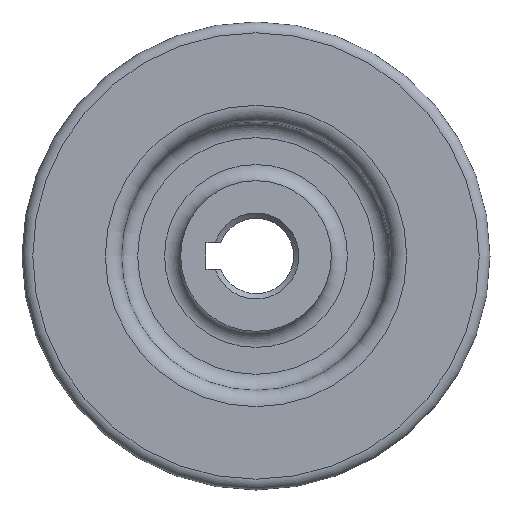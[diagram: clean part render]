
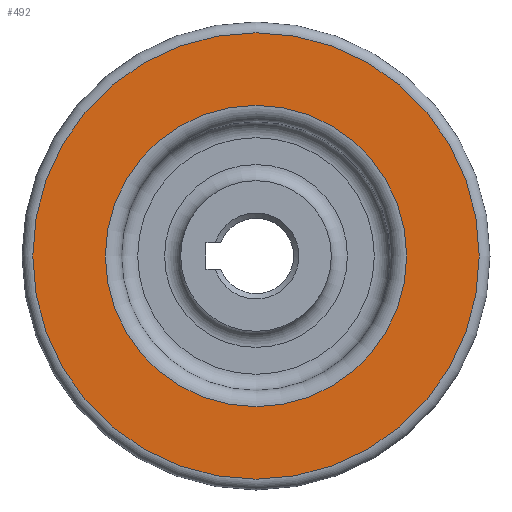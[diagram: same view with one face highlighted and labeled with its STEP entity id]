
A CAD part, left-side view. The second image highlights one B-rep face of the part: STEP entity #492.
In plain terms, the highlighted planar face has unit normal (-1, 0, 0).
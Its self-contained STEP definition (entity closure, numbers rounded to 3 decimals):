
#35=FACE_BOUND('',#126,.T.);
#78=PLANE('',#558);
#92=FACE_OUTER_BOUND('',#125,.T.);
#125=EDGE_LOOP('',(#379));
#126=EDGE_LOOP('',(#380));
#159=CIRCLE('',#554,41.5);
#162=CIRCLE('',#559,28.);
#223=VERTEX_POINT('',#863);
#226=VERTEX_POINT('',#873);
#279=EDGE_CURVE('',#223,#223,#159,.T.);
#283=EDGE_CURVE('',#226,#226,#162,.T.);
#379=ORIENTED_EDGE('',*,*,#279,.F.);
#380=ORIENTED_EDGE('',*,*,#283,.F.);
#492=ADVANCED_FACE('',(#92,#35),#78,.T.);
#554=AXIS2_PLACEMENT_3D('',#865,#668,#669);
#558=AXIS2_PLACEMENT_3D('',#872,#677,#678);
#559=AXIS2_PLACEMENT_3D('',#874,#679,#680);
#668=DIRECTION('center_axis',(1.,0.,0.));
#669=DIRECTION('ref_axis',(0.,-1.,0.));
#677=DIRECTION('center_axis',(-1.,0.,0.));
#678=DIRECTION('ref_axis',(0.,0.,1.));
#679=DIRECTION('center_axis',(-1.,0.,0.));
#680=DIRECTION('ref_axis',(0.,0.,-1.));
#863=CARTESIAN_POINT('',(-10.,0.,41.5));
#865=CARTESIAN_POINT('Origin',(-10.,0.,0.));
#872=CARTESIAN_POINT('Origin',(-10.,21.75,0.));
#873=CARTESIAN_POINT('',(-10.,0.,28.));
#874=CARTESIAN_POINT('Origin',(-10.,0.,0.));
